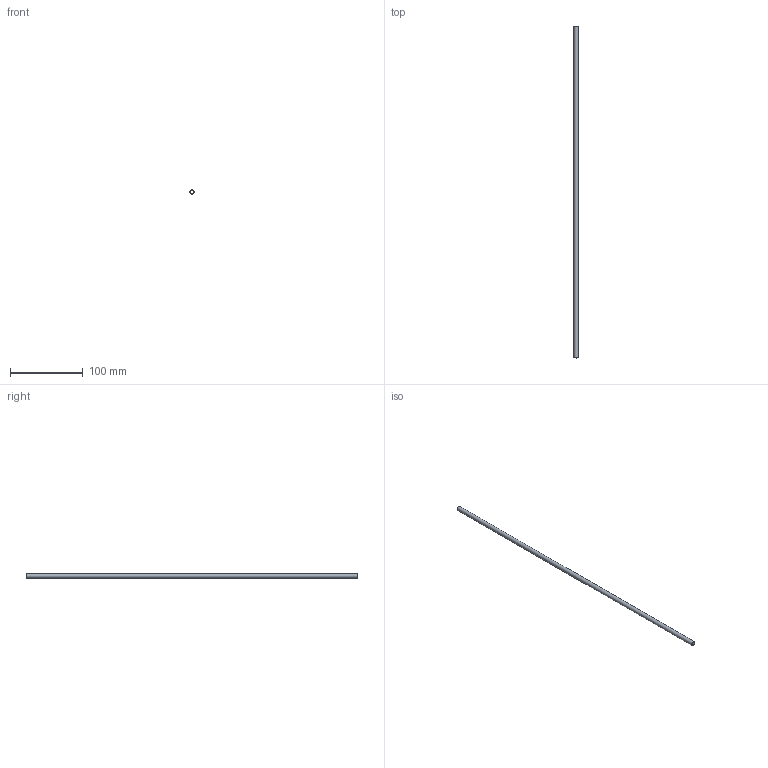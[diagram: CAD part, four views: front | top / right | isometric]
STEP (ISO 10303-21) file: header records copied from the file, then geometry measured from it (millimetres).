
FILE_DESCRIPTION(/* description */ (''),/* implementation_level */ '2;1');
FILE_NAME(/* name */ 'C:/Users/drich/Desktop/250T-18 v1.step',/* time_stamp */ '2019-12-27T17:28:25-06:00',/* author */ (''),/* organization */ (''),/* preprocessor_version */ 'ST-DEVELOPER v18',/* originating_system */ 'Autodesk Translation Framework v8.12.0.6',/* authorisation */ '');
FILE_SCHEMA (('AUTOMOTIVE_DESIGN { 1 0 10303 214 3 1 1 }'));
Length unit declared in the file: inch
Products named in the file (1): 250T-18
Bounding box: 6.24 x 457.2 x 6.24 mm (x, y, z)
Volume: 7300.8 mm3; surface area: 15196.8 mm2
Topology: 1 solids, 1 shells, 6 faces, 14 edges, 10 vertices
Faces by surface type: cone 2, cylinder 2, plane 2
Full cylindrical faces by diameter (mm): 4.318 x1, 6.243 x1
Entity records: 230 total; most frequent: DIRECTION 38, CARTESIAN_POINT 31, ORIENTED_EDGE 28, AXIS2_PLACEMENT_3D 17, EDGE_CURVE 14, CIRCLE 10, VERTEX_POINT 10, EDGE_LOOP 8
